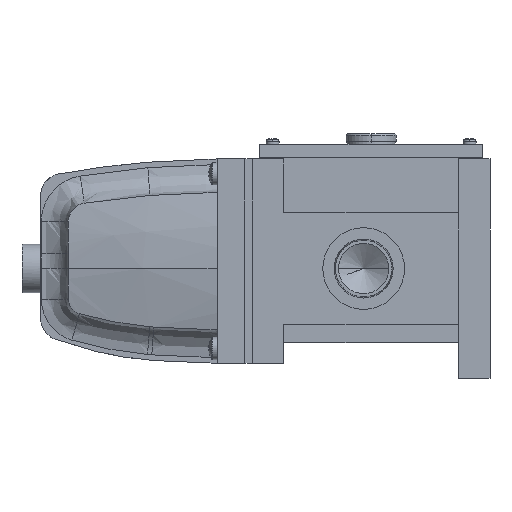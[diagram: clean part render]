
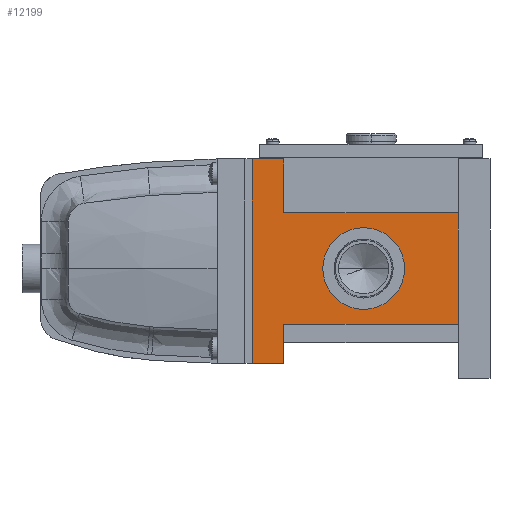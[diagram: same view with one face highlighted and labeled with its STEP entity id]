
A CAD part, left-side view. The second image highlights one B-rep face of the part: STEP entity #12199.
In plain terms, the highlighted planar face has unit normal (-1, 0, 0).
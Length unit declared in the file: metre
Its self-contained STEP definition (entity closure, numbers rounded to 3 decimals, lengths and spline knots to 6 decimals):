
#62 = VERTEX_POINT ( 'NONE', #9031 ) ;
#111 = FACE_OUTER_BOUND ( 'NONE', #5268, .T. ) ;
#273 = DIRECTION ( 'NONE',  ( 0., 0., 1. ) ) ;
#474 = VERTEX_POINT ( 'NONE', #13203 ) ;
#603 = ORIENTED_EDGE ( 'NONE', *, *, #6302, .T. ) ;
#723 = CARTESIAN_POINT ( 'NONE',  ( -0.045, 0.1195, 0.059 ) ) ;
#1040 = CARTESIAN_POINT ( 'NONE',  ( -0.045, 0.017, -0.051 ) ) ;
#1162 = DIRECTION ( 'NONE',  ( 0., 0., 1. ) ) ;
#1333 = ORIENTED_EDGE ( 'NONE', *, *, #10800, .F. ) ;
#1421 = CARTESIAN_POINT ( 'NONE',  ( -0.045, 0.128, -0.051 ) ) ;
#1696 = CARTESIAN_POINT ( 'NONE',  ( -0.045, 0.128, 0.059 ) ) ;
#1726 = CARTESIAN_POINT ( 'NONE',  ( -0.045, 0.111, 0.004 ) ) ;
#1826 = DIRECTION ( 'NONE',  ( 0., -1., 0. ) ) ;
#1931 = CARTESIAN_POINT ( 'NONE',  ( -0.045, 0.068, 0. ) ) ;
#1951 = VECTOR ( 'NONE', #9375, 1. ) ;
#2224 = CARTESIAN_POINT ( 'NONE',  ( -0.045, 0.128, 0.004 ) ) ;
#2262 = EDGE_CURVE ( 'NONE', #12562, #3633, #4530, .T. ) ;
#2575 = EDGE_CURVE ( 'NONE', #5190, #3736, #13165, .T. ) ;
#2622 = CARTESIAN_POINT ( 'NONE',  ( -0.045, 0.017, 0.03 ) ) ;
#2697 = DIRECTION ( 'NONE',  ( 1., 0., 0. ) ) ;
#2992 = DIRECTION ( 'NONE',  ( 0., 1., 0. ) ) ;
#3097 = LINE ( 'NONE', #6049, #11243 ) ;
#3178 = LINE ( 'NONE', #11265, #6316 ) ;
#3199 = DIRECTION ( 'NONE',  ( 0., -1., 0. ) ) ;
#3324 = CARTESIAN_POINT ( 'NONE',  ( -0.045, 0.111, 0.059 ) ) ;
#3399 = ORIENTED_EDGE ( 'NONE', *, *, #5987, .T. ) ;
#3419 = EDGE_LOOP ( 'NONE', ( #10258, #3399 ) ) ;
#3633 = VERTEX_POINT ( 'NONE', #2622 ) ;
#3674 = CARTESIAN_POINT ( 'NONE',  ( -0.045, 0.111, 0.03 ) ) ;
#3736 = VERTEX_POINT ( 'NONE', #1696 ) ;
#3750 = VECTOR ( 'NONE', #11298, 1. ) ;
#3954 = ORIENTED_EDGE ( 'NONE', *, *, #6158, .T. ) ;
#4195 = PLANE ( 'NONE',  #10991 ) ;
#4308 = VERTEX_POINT ( 'NONE', #3324 ) ;
#4449 = CARTESIAN_POINT ( 'NONE',  ( -0.045, 0.111, -0.03 ) ) ;
#4530 = LINE ( 'NONE', #11973, #9925 ) ;
#4689 = VECTOR ( 'NONE', #1162, 1. ) ;
#4873 = DIRECTION ( 'NONE',  ( 0., 0., 1. ) ) ;
#4957 = VERTEX_POINT ( 'NONE', #6414 ) ;
#4995 = ORIENTED_EDGE ( 'NONE', *, *, #6244, .T. ) ;
#5118 = ORIENTED_EDGE ( 'NONE', *, *, #2575, .F. ) ;
#5190 = VERTEX_POINT ( 'NONE', #1421 ) ;
#5268 = EDGE_LOOP ( 'NONE', ( #5118, #603, #11242, #7507, #10484, #3954, #4995, #1333 ) ) ;
#5288 = DIRECTION ( 'NONE',  ( -1., 0., 0. ) ) ;
#5987 = EDGE_CURVE ( 'NONE', #4957, #474, #8611, .T. ) ;
#6049 = CARTESIAN_POINT ( 'NONE',  ( -0.045, 0.1195, -0.051 ) ) ;
#6102 = VECTOR ( 'NONE', #1826, 1. ) ;
#6106 = DIRECTION ( 'NONE',  ( 0., -1., 0. ) ) ;
#6158 = EDGE_CURVE ( 'NONE', #3633, #7806, #7596, .T. ) ;
#6244 = EDGE_CURVE ( 'NONE', #7806, #4308, #12214, .T. ) ;
#6261 = AXIS2_PLACEMENT_3D ( 'NONE', #9072, #2697, #10172 ) ;
#6302 = EDGE_CURVE ( 'NONE', #5190, #62, #3097, .T. ) ;
#6316 = VECTOR ( 'NONE', #4873, 1. ) ;
#6414 = CARTESIAN_POINT ( 'NONE',  ( -0.045, 0.046, 0. ) ) ;
#6823 = LINE ( 'NONE', #10664, #9706 ) ;
#7159 = CARTESIAN_POINT ( 'NONE',  ( -0.045, 0.017, -0.03 ) ) ;
#7507 = ORIENTED_EDGE ( 'NONE', *, *, #8778, .T. ) ;
#7596 = LINE ( 'NONE', #13441, #1951 ) ;
#7806 = VERTEX_POINT ( 'NONE', #3674 ) ;
#8611 = CIRCLE ( 'NONE', #6261, 0.022 ) ;
#8778 = EDGE_CURVE ( 'NONE', #12741, #12562, #6823, .T. ) ;
#8977 = LINE ( 'NONE', #723, #6102 ) ;
#9031 = CARTESIAN_POINT ( 'NONE',  ( -0.045, 0.111, -0.051 ) ) ;
#9072 = CARTESIAN_POINT ( 'NONE',  ( -0.045, 0.068, 0. ) ) ;
#9163 = EDGE_CURVE ( 'NONE', #62, #12741, #3178, .T. ) ;
#9342 = EDGE_CURVE ( 'NONE', #474, #4957, #10032, .T. ) ;
#9371 = AXIS2_PLACEMENT_3D ( 'NONE', #1931, #9399, #2992 ) ;
#9375 = DIRECTION ( 'NONE',  ( 0., 1., 0. ) ) ;
#9399 = DIRECTION ( 'NONE',  ( 1., 0., 0. ) ) ;
#9706 = VECTOR ( 'NONE', #3199, 1. ) ;
#9925 = VECTOR ( 'NONE', #273, 1. ) ;
#10032 = CIRCLE ( 'NONE', #9371, 0.022 ) ;
#10172 = DIRECTION ( 'NONE',  ( 0., 1., 0. ) ) ;
#10258 = ORIENTED_EDGE ( 'NONE', *, *, #9342, .T. ) ;
#10484 = ORIENTED_EDGE ( 'NONE', *, *, #2262, .T. ) ;
#10664 = CARTESIAN_POINT ( 'NONE',  ( -0.045, 0.0725, -0.03 ) ) ;
#10800 = EDGE_CURVE ( 'NONE', #3736, #4308, #8977, .T. ) ;
#10991 = AXIS2_PLACEMENT_3D ( 'NONE', #1040, #5288, #12718 ) ;
#11242 = ORIENTED_EDGE ( 'NONE', *, *, #9163, .T. ) ;
#11243 = VECTOR ( 'NONE', #6106, 1. ) ;
#11265 = CARTESIAN_POINT ( 'NONE',  ( -0.045, 0.111, 0.004 ) ) ;
#11298 = DIRECTION ( 'NONE',  ( 0., 0., 1. ) ) ;
#11745 = FACE_BOUND ( 'NONE', #3419, .T. ) ;
#11973 = CARTESIAN_POINT ( 'NONE',  ( -0.045, 0.017, 0.004 ) ) ;
#12199 = ADVANCED_FACE ( 'NONE', ( #11745, #111 ), #4195, .T. ) ;
#12214 = LINE ( 'NONE', #1726, #3750 ) ;
#12562 = VERTEX_POINT ( 'NONE', #7159 ) ;
#12718 = DIRECTION ( 'NONE',  ( 0., 0., 1. ) ) ;
#12741 = VERTEX_POINT ( 'NONE', #4449 ) ;
#13165 = LINE ( 'NONE', #2224, #4689 ) ;
#13203 = CARTESIAN_POINT ( 'NONE',  ( -0.045, 0.09, 0. ) ) ;
#13441 = CARTESIAN_POINT ( 'NONE',  ( -0.045, 0.0725, 0.03 ) ) ;
